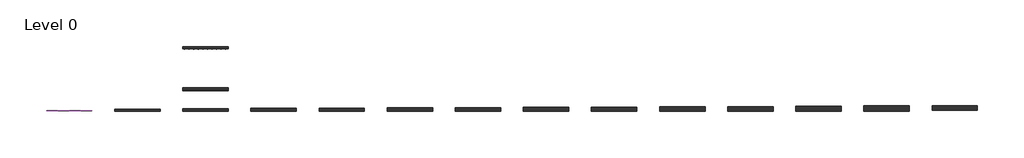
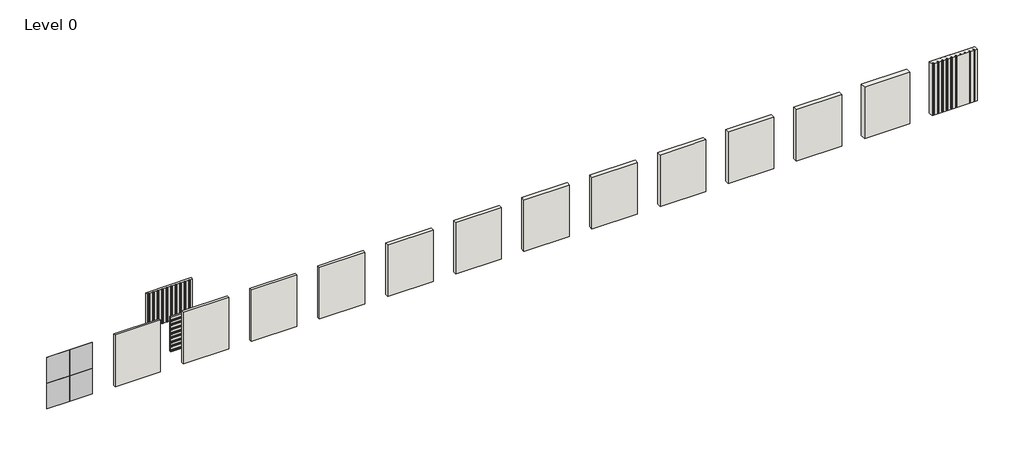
# One storey, incomplete: 15 walls, 4 fasteners, 4 plates.
"""IFC4 building model written with IfcOpenShell, lengths in millimetres."""

from ifc_helpers import new_model, si_unit, origin, origin_with_axes, place, context, project, spatial, polyline, outline, extrude, transform, mapped, element, save
from components import fastener_bf1eb5b9, fastener_09b3d739, fastener_4850408f, fastener_8bfa3064, fastener_bb8683ab, fastener_929703bf, fastener_0e16a299, fastener_dfe876d4, fastener_7959c945, fastener_70a87223, fastener_15a7baf3, fastener_8ece5dc1, metal_stud_substrate_e28d9b51, system_panel_glazed_ae204111

model = new_model("IFC4")

# Units and contexts
model_context = context("Model", 3, world=origin())
ifc_project = project(units=[si_unit("LENGTHUNIT", "METRE", prefix="MILLI")], contexts=[model_context])

# Site, building, storey
site = spatial("IfcSite", under=ifc_project)
building = spatial("IfcBuilding", under=site)
storey = spatial("IfcBuildingStorey", under=building, Name="Level 0", Elevation=0.0)

# Fasteners
placement = place(None, origin())
fastener_shape = fastener_bf1eb5b9(model_context)
fastener_2_shape = fastener_09b3d739(model_context)
fastener_3_shape = fastener_4850408f(model_context)
fastener_4_shape = fastener_8bfa3064(model_context)
element("IfcFastener", 1, ObjectType="Structural-Supporting-Components_Advanced-Architectural-Products_GreenGirt-Max-CMH-System : GreenGirt Max CMH 1.5\"", at=placement, inside=storey, context=model_context, shape_type="MappedRepresentation", body=[
    mapped(fastener_shape, transform((-9509.4866144, 8389.6836599, 0.0), x_axis=(1.0, 0.0, 0.0), y_axis=(0.0, 1.0, 0.0), z_axis=(0.0, 0.0, 1.0))),
    mapped(fastener_2_shape, transform((-9509.4866144, 8389.6836599, 0.0), x_axis=(1.0, 0.0, 0.0), y_axis=(0.0, 1.0, 0.0), z_axis=(0.0, 0.0, 1.0))),
    mapped(fastener_3_shape, transform((-9509.4866144, 8389.6836599, 0.0), x_axis=(1.0, 0.0, 0.0), y_axis=(0.0, 1.0, 0.0), z_axis=(0.0, 0.0, 1.0))),
    mapped(fastener_4_shape, transform((-9509.4866144, 8389.6836599, 0.0), x_axis=(1.0, 0.0, 0.0), y_axis=(0.0, 1.0, 0.0), z_axis=(0.0, 0.0, 1.0))),
])
fastener_5_shape = fastener_bb8683ab(model_context)
fastener_6_shape = fastener_929703bf(model_context)
fastener_7_shape = fastener_0e16a299(model_context)
fastener_8_shape = fastener_dfe876d4(model_context)
element("IfcFastener", 2, ObjectType="Structural-Supporting-Components_Advanced-Architectural-Products_GreenGirt-Max-CMH-System : GreenGirt Max CMH 1.5\"", at=placement, inside=storey, context=model_context, shape_type="MappedRepresentation", body=[
    mapped(fastener_5_shape, transform((-9509.4866144, 10701.0836599, 0.0), x_axis=(1.0, 0.0, 0.0), y_axis=(0.0, 1.0, 0.0), z_axis=(0.0, 0.0, 1.0))),
    mapped(fastener_6_shape, transform((-9509.4866144, 10701.0836599, 0.0), x_axis=(1.0, 0.0, 0.0), y_axis=(0.0, 1.0, 0.0), z_axis=(0.0, 0.0, 1.0))),
    mapped(fastener_7_shape, transform((-9509.4866144, 10701.0836599, 0.0), x_axis=(1.0, 0.0, 0.0), y_axis=(0.0, 1.0, 0.0), z_axis=(0.0, 0.0, 1.0))),
    mapped(fastener_8_shape, transform((-9509.4866144, 10701.0836599, 0.0), x_axis=(1.0, 0.0, 0.0), y_axis=(0.0, 1.0, 0.0), z_axis=(0.0, 0.0, 1.0))),
])
fastener_9_shape = fastener_7959c945(model_context)
fastener_10_shape = fastener_70a87223(model_context)
fastener_11_shape = fastener_15a7baf3(model_context)
fastener_12_shape = fastener_8ece5dc1(model_context)
element("IfcFastener", 3, ObjectType="Structural-Supporting-Components_Advanced-Architectural-Products_GreenGirt-Max-CMH-System : GreenGirt Max CMH 1.5\"", at=placement, inside=storey, context=model_context, shape_type="MappedRepresentation", body=[
    mapped(fastener_9_shape, transform((32399.3543883, 7302.9336599, 0.0), x_axis=(1.0, 0.0, 0.0), y_axis=(0.0, 1.0, 0.0), z_axis=(0.0, 0.0, 1.0))),
    mapped(fastener_10_shape, transform((32399.3543883, 7302.9336599, 0.0), x_axis=(1.0, 0.0, 0.0), y_axis=(0.0, 1.0, 0.0), z_axis=(0.0, 0.0, 1.0))),
    mapped(fastener_11_shape, transform((32399.3543883, 7302.9336599, 0.0), x_axis=(1.0, 0.0, 0.0), y_axis=(0.0, 1.0, 0.0), z_axis=(0.0, 0.0, 1.0))),
    mapped(fastener_12_shape, transform((32399.3543883, 7302.9336599, 0.0), x_axis=(1.0, 0.0, 0.0), y_axis=(0.0, 1.0, 0.0), z_axis=(0.0, 0.0, 1.0))),
])
metal_stud_substrate_shape = metal_stud_substrate_e28d9b51(model_context)
element("IfcFastener", 4, ObjectType="Structural-Supporting-Components_Advanced-Architectural-Products_Metal-Stud-Substrate : Metal Stud Substrate", at=placement, inside=storey, context=model_context, shape_type="MappedRepresentation", body=[
    mapped(metal_stud_substrate_shape, transform((32399.3543883, 7480.7336599, 0.0), x_axis=(1.0, 0.0, 0.0), y_axis=(0.0, 1.0, 0.0), z_axis=(0.0, 0.0, 1.0))),
])

# Plates
system_panel_glazed_shape = system_panel_glazed_ae204111(model_context)
element("IfcPlate", 5, ObjectType="System Panel : Glazed", at=placement, inside=storey, context=model_context, shape_type="MappedRepresentation", body=[
    mapped(system_panel_glazed_shape, transform((-16494.2493421, 7259.0836599, 0.0), x_axis=(1.0, 0.0, 0.0), y_axis=(0.0, 1.0, 0.0), z_axis=(0.0, 0.0, 1.0))),
])
element("IfcPlate", 6, ObjectType="System Panel : Glazed", at=placement, inside=storey, context=model_context, shape_type="MappedRepresentation", body=[
    mapped(system_panel_glazed_shape, transform((-15224.2493421, 7259.0836599, 0.0), x_axis=(1.0, 0.0, 0.0), y_axis=(0.0, 1.0, 0.0), z_axis=(0.0, 0.0, 1.0))),
])
element("IfcPlate", 7, ObjectType="System Panel : Glazed", at=placement, inside=storey, context=model_context, shape_type="MappedRepresentation", body=[
    mapped(system_panel_glazed_shape, transform((-16494.2493421, 7259.0836599, 1524.0), x_axis=(1.0, 0.0, 0.0), y_axis=(0.0, 1.0, 0.0), z_axis=(0.0, 0.0, 1.0))),
])
element("IfcPlate", 8, ObjectType="System Panel : Glazed", at=placement, inside=storey, context=model_context, shape_type="MappedRepresentation", body=[
    mapped(system_panel_glazed_shape, transform((-15224.2493421, 7259.0836599, 1524.0), x_axis=(1.0, 0.0, 0.0), y_axis=(0.0, 1.0, 0.0), z_axis=(0.0, 0.0, 1.0))),
])

# Walls
element("IfcWall", 9, ObjectType="AAP Basic Wall-Ext", at=placement, inside=storey, context=model_context, shape_type="SweptSolid", body=[
    extrude(outline(polyline([(-10779.3679784, 7196.0836599), (-13319.3679784, 7196.0836599), (-13319.3679784, 7308.5836599), (-10779.3679784, 7308.5836599), (-10779.3679784, 7196.0836599)])), origin_with_axes(), (0.0, 0.0, 1.0), 3048.0),
])
element("IfcWall", 10, ObjectType="AAP Basic Wall-Ext", at=placement, inside=storey, context=model_context, shape_type="SweptSolid", body=[
    extrude(outline(polyline([(-6969.3679784, 8389.6836599), (-9509.3679784, 8389.6836599), (-9509.3679784, 8502.1836599), (-6969.3679784, 8502.1836599), (-6969.3679784, 8389.6836599)])), origin_with_axes(), (0.0, 0.0, 1.0), 2032.0),
])
element("IfcWall", 11, ObjectType="AAP Basic Wall-Ext", at=placement, inside=storey, context=model_context, shape_type="SweptSolid", body=[
    extrude(outline(polyline([(-6969.3679784, 10701.0836599), (-9509.3679784, 10701.0836599), (-9509.3679784, 10813.5836599), (-6969.3679784, 10813.5836599), (-6969.3679784, 10701.0836599)])), origin_with_axes(), (0.0, 0.0, 1.0), 2032.0),
])
element("IfcWall", 12, ObjectType="AAP Wall-Ext_1.5\" Fiberglass Batt", at=placement, inside=storey, context=model_context, shape_type="SweptSolid", body=[
    extrude(outline(polyline([(-6969.3679784, 7196.0836599), (-9509.3679784, 7196.0836599), (-9509.3679784, 7346.6836599), (-6969.3679784, 7346.6836599), (-6969.3679784, 7196.0836599)])), origin_with_axes(), (0.0, 0.0, 1.0), 3048.0),
])
element("IfcWall", 13, ObjectType="AAP Wall-Ext_1.5\" Fiberglass Batt, Air", at=placement, inside=storey, context=model_context, shape_type="SweptSolid", body=[
    extrude(outline(polyline([(34939.3543883, 7252.3336599), (32399.3543883, 7252.3336599), (32399.3543883, 7506.1336599), (34939.3543883, 7506.1336599), (34939.3543883, 7252.3336599)])), origin_with_axes(), (0.0, 0.0, 1.0), 3048.0),
])
element("IfcWall", 14, ObjectType="AAP Wall-Ext_2.0\" Fiberglass Batt", at=placement, inside=storey, context=model_context, shape_type="SweptSolid", body=[
    extrude(outline(polyline([(-3159.3679784, 7196.0836599), (-5699.3679784, 7196.0836599), (-5699.3679784, 7359.3836599), (-3159.3679784, 7359.3836599), (-3159.3679784, 7196.0836599)])), origin_with_axes(), (0.0, 0.0, 1.0), 3048.0),
])
element("IfcWall", 15, ObjectType="AAP Wall-Ext_2.5\" Fiberglass Batt", at=placement, inside=storey, context=model_context, shape_type="SweptSolid", body=[
    extrude(outline(polyline([(650.6320216, 7196.0836599), (-1889.3679784, 7196.0836599), (-1889.3679784, 7372.0836599), (650.6320216, 7372.0836599), (650.6320216, 7196.0836599)])), origin_with_axes(), (0.0, 0.0, 1.0), 3048.0),
])
element("IfcWall", 16, ObjectType="AAP Wall-Ext_3.0\" Fiberglass Batt", at=placement, inside=storey, context=model_context, shape_type="SweptSolid", body=[
    extrude(outline(polyline([(4460.6320216, 7196.0836599), (1920.6320216, 7196.0836599), (1920.6320216, 7384.7836599), (4460.6320216, 7384.7836599), (4460.6320216, 7196.0836599)])), origin_with_axes(), (0.0, 0.0, 1.0), 3048.0),
])
element("IfcWall", 17, ObjectType="AAP Wall-Ext_3.5\" Fiberglass Batt", at=placement, inside=storey, context=model_context, shape_type="SweptSolid", body=[
    extrude(outline(polyline([(8270.6320216, 7196.0836599), (5730.6320216, 7196.0836599), (5730.6320216, 7397.4836599), (8270.6320216, 7397.4836599), (8270.6320216, 7196.0836599)])), origin_with_axes(), (0.0, 0.0, 1.0), 3048.0),
])
element("IfcWall", 18, ObjectType="AAP Wall-Ext_4.0\" Fiberglass Batt", at=placement, inside=storey, context=model_context, shape_type="SweptSolid", body=[
    extrude(outline(polyline([(12080.6320216, 7196.0836599), (9540.6320216, 7196.0836599), (9540.6320216, 7410.1836599), (12080.6320216, 7410.1836599), (12080.6320216, 7196.0836599)])), origin_with_axes(), (0.0, 0.0, 1.0), 3048.0),
])
element("IfcWall", 19, ObjectType="AAP Wall-Ext_4.5\" Fiberglass Batt", at=placement, inside=storey, context=model_context, shape_type="SweptSolid", body=[
    extrude(outline(polyline([(15890.6320216, 7196.0836599), (13350.6320216, 7196.0836599), (13350.6320216, 7422.8836599), (15890.6320216, 7422.8836599), (15890.6320216, 7196.0836599)])), origin_with_axes(), (0.0, 0.0, 1.0), 3048.0),
])
element("IfcWall", 20, ObjectType="AAP Wall-Ext_5.0\" Fiberglass Batt", at=placement, inside=storey, context=model_context, shape_type="SweptSolid", body=[
    extrude(outline(polyline([(19700.6320216, 7196.0836599), (17160.6320216, 7196.0836599), (17160.6320216, 7435.5836599), (19700.6320216, 7435.5836599), (19700.6320216, 7196.0836599)])), origin_with_axes(), (0.0, 0.0, 1.0), 3048.0),
])
element("IfcWall", 21, ObjectType="AAP Wall-Ext_5.5\" Fiberglass Batt", at=placement, inside=storey, context=model_context, shape_type="SweptSolid", body=[
    extrude(outline(polyline([(23510.6320216, 7196.0836599), (20970.6320216, 7196.0836599), (20970.6320216, 7448.2836599), (23510.6320216, 7448.2836599), (23510.6320216, 7196.0836599)])), origin_with_axes(), (0.0, 0.0, 1.0), 3048.0),
])
element("IfcWall", 22, ObjectType="AAP Wall-Ext_6.0\" Fiberglass Batt", at=placement, inside=storey, context=model_context, shape_type="SweptSolid", body=[
    extrude(outline(polyline([(27320.6320216, 7196.0836599), (24780.6320216, 7196.0836599), (24780.6320216, 7460.9836599), (27320.6320216, 7460.9836599), (27320.6320216, 7196.0836599)])), origin_with_axes(), (0.0, 0.0, 1.0), 3048.0),
])
element("IfcWall", 23, ObjectType="AAP Wall-Ext_8.0\" Fiberglass Batt", at=placement, inside=storey, context=model_context, shape_type="SweptSolid", body=[
    extrude(outline(polyline([(31130.6320216, 7196.0836599), (28590.6320216, 7196.0836599), (28590.6320216, 7511.7836599), (31130.6320216, 7511.7836599), (31130.6320216, 7196.0836599)])), origin_with_axes(), (0.0, 0.0, 1.0), 3048.0),
])

save(model, "model.ifc")
